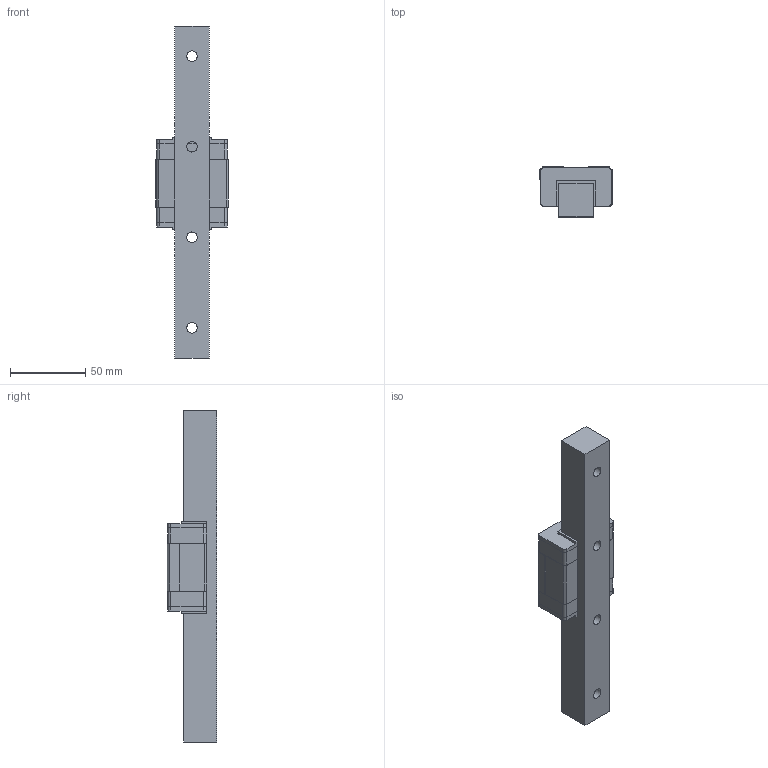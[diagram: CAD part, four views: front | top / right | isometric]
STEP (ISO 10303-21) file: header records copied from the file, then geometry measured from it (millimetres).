
FILE_DESCRIPTION((''),'2;1');
FILE_NAME('E:\PDF郪磁芞\DFS-B\DFS25BS.STP','2018-01-31T12:47:45',(''),(''),'STEP Write','Mastercam V9 ... CNC Software, Inc.','');
FILE_SCHEMA(('CONFIG_CONTROL_DESIGN'));
Length unit declared in the file: millimetre
Bounding box: 48 x 33 x 220 mm (x, y, z)
Volume: 155916.2 mm3; surface area: 42073.9 mm2
Topology: 6 solids, 6 shells, 106 faces, 500 edges, 638 vertices
Faces by surface type: plane 80, cylinder 26
Full cylindrical faces by diameter (mm): 5.5 x2, 7 x4, 11 x4
Entity records: 4646 total; most frequent: CARTESIAN_POINT 1037, DIRECTION 793, ORIENTED_EDGE 508, VECTOR 379, LINE 379, EDGE_CURVE 254, TRIMMED_CURVE 226, AXIS2_PLACEMENT_3D 207
